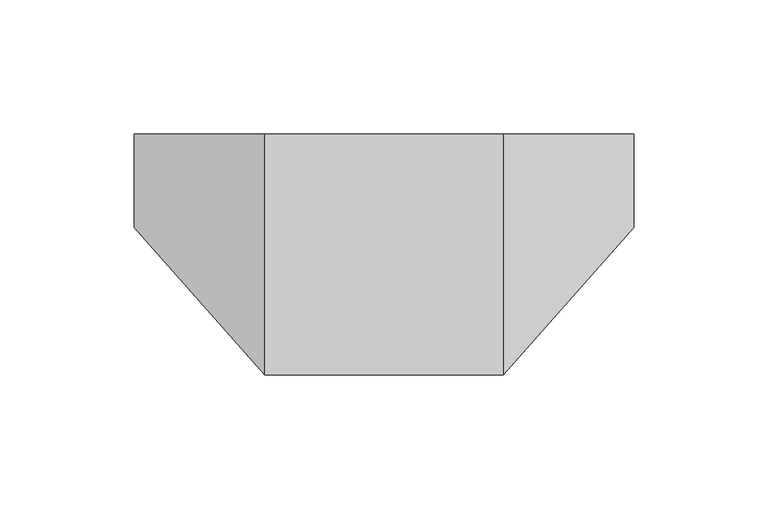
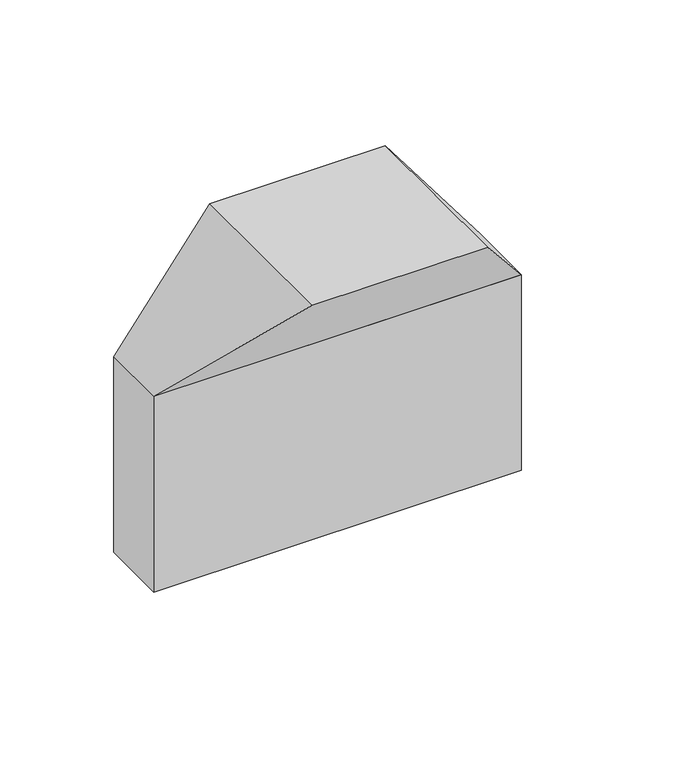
"""IFC4 building model written with IfcOpenShell, lengths in millimetres: duct fitting geometry, Отвод плоский - для перехода на кабель-канал шириной 80 мм - белый : Отвод плоский - для односекционных кабель-каналов DLP 35х105, 50х150 - ширина крышки 65 мм - белый."""

from ifc_helpers import new_model, si_unit, frame, origin, place, context, project, spatial, polyline, outline, extrude, faceted_brep, source, transform, mapped, element, save


def duct_fitting_029ce2a5(model_context):
    return source(origin(), model_context, "Body", "SolidModel", [
        faceted_brep([(44.5, 85.0, 65.0), (-44.5, 85.0, 65.0), (-44.5, -5.0, 65.0), (44.5, -5.0, 65.0), (93.2693175, 85.0, 0.0), (93.2693175, 50.0, 0.0), (-93.2693175, 50.0, 0.0), (-93.2693175, 85.0, 0.0)], [[[0, 1, 2, 3]], [[4, 5, 6, 7]], [[4, 7, 1, 0]], [[7, 6, 2, 1]], [[6, 5, 3, 2]], [[5, 4, 0, 3]]]),
        extrude(outline(polyline([(93.2693175, 85.0), (93.2693175, 50.0), (-93.2693175, 50.0), (-93.2693175, 85.0), (93.2693175, 85.0)])), frame((0.0, 0.0, -105.0), z_axis=(0.0, 0.0, 1.0), x_axis=(1.0, 0.0, 0.0)), (0.0, 0.0, 1.0), 105.0),
    ])


if __name__ == "__main__":
    model = new_model("IFC4")
    model_context = context("Model", 3, world=origin())
    ifc_project = project(units=[si_unit("LENGTHUNIT", "METRE", prefix="MILLI")], contexts=[model_context])
    site = spatial("IfcSite", under=ifc_project)
    building = spatial("IfcBuilding", under=site)
    placement = place(None, origin())
    duct_fitting_shape = duct_fitting_029ce2a5(model_context)
    element("IfcDuctFitting", 1, ObjectType="Отвод плоский - для перехода на кабель-канал шириной 80 мм - белый : Отвод плоский - для односекционных кабель-каналов DLP 35х105, 50х150 - ширина крышки 65 мм - белый", at=placement, inside=building, context=model_context, shape_type="MappedRepresentation", body=[
        mapped(duct_fitting_shape, transform((0.0, 0.0, 0.0), x_axis=(1.0, 0.0, 0.0), y_axis=(0.0, 1.0, 0.0), z_axis=(0.0, 0.0, 1.0))),
    ])
    save(model, "model.ifc")
